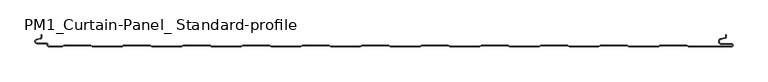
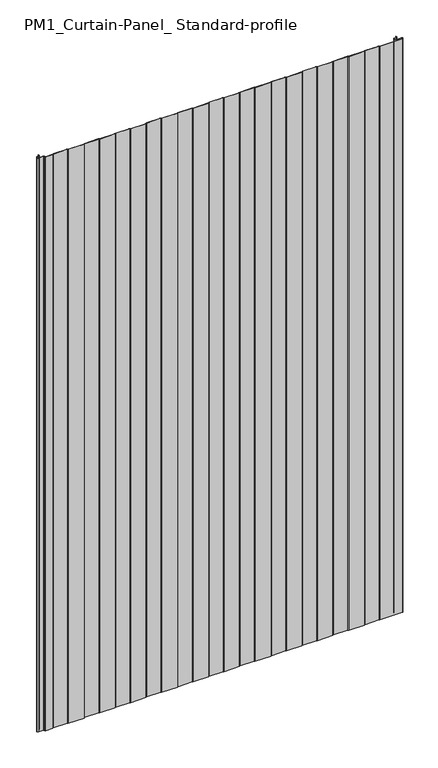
"""IFC4 building model written with IfcOpenShell, lengths in millimetres: plate geometry, PM1_Curtain-Panel_ Standard-profile : ACH_PM1_Acoustic-Sectioning-Panel_200M."""

import ifcopenshell
import ifcopenshell.guid

model = None  # the IFC model being written
_history = None  # IfcOwnerHistory: only IFC2X3 demands one
_inside = {}  # id of a spatial element -> (the spatial element, [elements in it])
_under = {}  # id of a project, library or spatial element -> (it, [spatial elements below it])
_declared = {}  # id of a project -> (the project, [libraries it declares])
_typed = {}  # id of a type object -> (the type object, [elements of that type])
_made_of = {}  # id of a material, layer set ... -> (it, [elements and type objects made of it])


def new_model(schema):
    """Start an empty IFC model of exactly this schema.

    Asked for "IFC4X3", IfcOpenShell would pick the latest addendum, in which some entities
    have other attributes; the version numbers below select the first issue.
    IFC2X3 requires an IfcOwnerHistory on every rooted entity: one is made here for all.
    """
    global model, _history
    if schema == "IFC4X3":
        model = ifcopenshell.file(schema_version=(4, 3, 0, 0))
    else:
        model = ifcopenshell.file(schema=schema)
    _inside.clear()
    _under.clear()
    _declared.clear()
    _typed.clear()
    _made_of.clear()
    _history = None
    if model.schema == "IFC2X3":
        org = make("IfcOrganization", Name="unknown")
        user = make(
            "IfcPersonAndOrganization",
            ThePerson=make("IfcPerson", FamilyName="unknown"),
            TheOrganization=org,
        )
        app = make(
            "IfcApplication",
            ApplicationDeveloper=org,
            Version="unknown",
            ApplicationFullName="unknown",
            ApplicationIdentifier="unknown",
        )
        _history = make(
            "IfcOwnerHistory",
            OwningUser=user,
            OwningApplication=app,
            ChangeAction="ADDED",
            CreationDate=0,
        )
    return model


def make(cls, **values):
    """One entity of the class cls with the attributes given. An attribute that is None is left unset."""
    return model.create_entity(
        cls, **{name: value for name, value in values.items() if value is not None}
    )


def rooted(cls, **values):
    """An entity with a GlobalId (a new one), such as an element, a storey or a relation."""
    return make(cls, GlobalId=ifcopenshell.guid.new(), OwnerHistory=_history, **values)


def si_unit(unit_type, name, prefix=None):
    """IfcSIUnit, for example si_unit("LENGTHUNIT", "METRE", prefix="MILLI")."""
    return make("IfcSIUnit", UnitType=unit_type, Prefix=prefix, Name=name)


def assignment(units):
    """IfcUnitAssignment: the units of a project."""
    return None if units is None else make("IfcUnitAssignment", Units=units)


def point(xyz):
    """IfcCartesianPoint."""
    return None if xyz is None else make("IfcCartesianPoint", Coordinates=xyz)


def direction(xyz):
    """IfcDirection."""
    return None if xyz is None else make("IfcDirection", DirectionRatios=xyz)


def frame(location, z_axis=None, x_axis=None):
    """IfcAxis2Placement3D, a coordinate frame: its origin and axes. An axis left out is left unset."""
    return make(
        "IfcAxis2Placement3D",
        Location=point(location),
        Axis=direction(z_axis),
        RefDirection=direction(x_axis),
    )


def origin():
    """The frame at (0, 0, 0) with its axes left unset."""
    return frame((0.0, 0.0, 0.0))


def place(relative_to, where):
    """IfcLocalPlacement: puts the frame where relative to a parent placement (None: the world)."""
    return make(
        "IfcLocalPlacement", PlacementRelTo=relative_to, RelativePlacement=where
    )


def context(
    kind, dimensions, precision=None, world=None, true_north=None, identifier=None
):
    """IfcGeometricRepresentationContext, for example the 3D "Model" context."""
    return make(
        "IfcGeometricRepresentationContext",
        ContextIdentifier=identifier,
        ContextType=kind,
        CoordinateSpaceDimension=dimensions,
        Precision=precision,
        WorldCoordinateSystem=world,
        TrueNorth=true_north,
    )


def project(units=None, contexts=None):
    """IfcProject with its units and contexts."""
    return rooted(
        "IfcProject",
        Name="project",
        RepresentationContexts=contexts,
        UnitsInContext=assignment(units),
    )


def spatial(cls, under=None, at=None, **own):
    """A site, building, storey or space (cls), placed at a placement, below another one or the project."""
    s = rooted(cls, ObjectPlacement=at, **own)
    if under is not None:
        _under.setdefault(under.id(), (under, []))[1].append(s)
    return s


def polyline(points):
    """IfcPolyline through the points."""
    return make("IfcPolyline", Points=[point(p) for p in points])


def circle_curve(where, radius):
    """IfcCircle in the frame where."""
    return make("IfcCircle", Position=where, Radius=radius)


def shape(context_of_items, identifier, shape_type, items):
    """IfcShapeRepresentation: the items that make up one representation, for example the "Body"."""
    return make(
        "IfcShapeRepresentation",
        ContextOfItems=context_of_items,
        RepresentationIdentifier=identifier,
        RepresentationType=shape_type,
        Items=items,
    )


def source(mapping_origin, context_of_items, identifier, shape_type, items):
    """IfcRepresentationMap: a shape defined once, which mapped items show again and again."""
    return make(
        "IfcRepresentationMap",
        MappingOrigin=mapping_origin,
        MappedRepresentation=shape(context_of_items, identifier, shape_type, items),
    )


def transform(
    local_origin,
    x_axis=None,
    y_axis=None,
    z_axis=None,
    scale=None,
    scale2=None,
    scale3=None,
    uniform=True,
):
    """IfcCartesianTransformationOperator3D, or its non-uniform kind. x_axis, y_axis, z_axis: its Axis1, 2, 3."""
    if uniform:
        return make(
            "IfcCartesianTransformationOperator3D",
            Axis1=direction(x_axis),
            Axis2=direction(y_axis),
            LocalOrigin=point(local_origin),
            Scale=scale,
            Axis3=direction(z_axis),
        )
    return make(
        "IfcCartesianTransformationOperator3DnonUniform",
        Axis1=direction(x_axis),
        Axis2=direction(y_axis),
        LocalOrigin=point(local_origin),
        Scale=scale,
        Axis3=direction(z_axis),
        Scale2=scale2,
        Scale3=scale3,
    )


def mapped(mapping_source, mapping_target):
    """IfcMappedItem: shows the shape of a source again, moved by a transform."""
    return make(
        "IfcMappedItem", MappingSource=mapping_source, MappingTarget=mapping_target
    )


def made_of(thing, what):
    """Note that an element or type object is made of a material, layer set ...; save() writes the relation."""
    if what is not None:
        _made_of.setdefault(what.id(), (what, []))[1].append(thing)
    return thing


def element(
    cls,
    number,
    at=None,
    inside=None,
    cuts=None,
    type_object=None,
    material=None,
    context=None,
    identifier="Body",
    shape_type=None,
    held_by="IfcProductDefinitionShape",
    body=None,
    shapes=None,
    **own,
):
    """One element of the class cls, such as IfcWall. Its Tag is "e" and its number.

    at: its placement. inside: the storey or other place that contains it. cuts: it is an
    opening in that element (IfcRelVoidsElement). A single representation is given by context,
    identifier, shape_type and body (its items); several are given by shapes. held_by: the class
    of the entity that holds the representations. save() writes the other relations.
    """
    e = rooted(cls, Tag="e%d" % number, ObjectPlacement=at, **own)
    if body is not None:
        shapes = [shape(context, identifier, shape_type, body)]
    if shapes is not None:
        e.Representation = make(held_by, Representations=shapes)
    if inside is not None:
        _inside.setdefault(inside.id(), (inside, []))[1].append(e)
    if cuts is not None:
        rooted(
            "IfcRelVoidsElement", RelatingBuildingElement=cuts, RelatedOpeningElement=e
        )
    if type_object is not None:
        _typed.setdefault(type_object.id(), (type_object, []))[1].append(e)
    return made_of(e, material)


def aggregate(whole, parts):
    """IfcRelAggregates: a whole, such as a stair, and the parts it consists of."""
    return rooted("IfcRelAggregates", RelatingObject=whole, RelatedObjects=parts)


def save(model, path):
    """Write the relations noted so far, then the file.

    IfcRelAggregates (storeys below a building ...), IfcRelContainedInSpatialStructure (elements
    in a storey), IfcRelDefinesByType, IfcRelAssociatesMaterial and IfcRelDeclares: one each for
    every whole, place, type object, material and project.
    """
    for whole, parts in _under.values():
        aggregate(whole, parts)
    for where, things in _inside.values():
        rooted(
            "IfcRelContainedInSpatialStructure",
            RelatedElements=things,
            RelatingStructure=where,
        )
    for kind, things in _typed.values():
        rooted("IfcRelDefinesByType", RelatedObjects=things, RelatingType=kind)
    for what, things in _made_of.values():
        rooted("IfcRelAssociatesMaterial", RelatedObjects=things, RelatingMaterial=what)
    for by, libraries in _declared.values():
        rooted("IfcRelDeclares", RelatingContext=by, RelatedDefinitions=libraries)
    model.write(path)


def plane_surface(at):
    """IfcPlane: the flat surface through the origin of the frame at, square to its z axis."""
    return make("IfcPlane", Position=at)


def cylinder_surface(at, radius):
    """IfcCylindricalSurface: all points at the distance radius from the z axis of the frame at."""
    return make("IfcCylindricalSurface", Position=at, Radius=radius)


def revolved_surface(curve, axis_point, axis_direction):
    """IfcSurfaceOfRevolution: the curve turned about the line through axis_point along axis_direction."""
    return make(
        "IfcSurfaceOfRevolution",
        SweptCurve=make("IfcArbitraryOpenProfileDef", ProfileType="CURVE", Curve=curve),
        AxisPosition=make("IfcAxis1Placement", Location=point(axis_point), Axis=direction(axis_direction)),
    )


def advanced_brep(points, edges, surfaces, faces):
    """IfcAdvancedBrep: a solid bounded by faces that lie on surfaces and meet in shared edges.

    An edge is (start, end): straight between two places in points (the first is 0);
    or (start, end, curve); or (start, end, curve, False) where it runs against its curve.
    A face is (place in surfaces, loops), or (place, loops, False) where it looks against
    its surface's normal. A loop lists edges by number (the first is 1), with a minus sign
    where the edge is run from its end to its start. The first loop is the outer one.
    """
    corners = [point(p) for p in points]
    vertices = [make("IfcVertexPoint", VertexGeometry=c) for c in corners]
    made = []
    for start, end, *more in edges:
        made.append(
            make(
                "IfcEdgeCurve",
                EdgeStart=vertices[start],
                EdgeEnd=vertices[end],
                EdgeGeometry=more[0] if more else make("IfcPolyline", Points=[corners[start], corners[end]]),
                SameSense=more[1] if len(more) > 1 else True,
            )
        )
    hull = []
    for where, loops, *sense in faces:
        bounds = []
        for j, loop in enumerate(loops):
            ring = [make("IfcOrientedEdge", EdgeElement=made[abs(k) - 1], Orientation=k > 0) for k in loop]
            bounds.append(
                make(
                    "IfcFaceOuterBound" if j == 0 else "IfcFaceBound",
                    Bound=make("IfcEdgeLoop", EdgeList=ring),
                    Orientation=True,
                )
            )
        hull.append(make("IfcAdvancedFace", Bounds=bounds, FaceSurface=surfaces[where], SameSense=sense[0] if sense else True))
    return make("IfcAdvancedBrep", Outer=make("IfcClosedShell", CfsFaces=hull))


def pm1_curtain_panel_standard_profile_b1a9f643(model_context):
    return source(origin(), model_context, "Body", "AdvancedBrep", [
        advanced_brep(
        [(-562.4, -200.0, 1945.7507136), (-539.3999999, -200.0, 1945.7507136), (-536.8019223, -198.5, 1945.7507136), (-492.0019247, -198.5, 1945.7507136), (-489.4038471, -200.0, 1945.7507136), (-439.3999999, -200.0, 1945.7507136), (-436.8019223, -198.5, 1945.7507136), (-392.0019247, -198.5, 1945.7507136), (-389.4038471, -200.0, 1945.7507136), (-339.3999999, -200.0, 1945.7507136), (-336.8019223, -198.5, 1945.7507136), (-292.0019247, -198.5, 1945.7507136), (-289.4038471, -200.0, 1945.7507136), (-239.3999999, -200.0, 1945.7507136), (-236.8019223, -198.5, 1945.7507136), (-192.0019247, -198.5, 1945.7507136), (-189.4038471, -200.0, 1945.7507136), (-139.3999999, -200.0, 1945.7507136), (-136.8019223, -198.5, 1945.7507136), (-92.0019247, -198.5, 1945.7507136), (-89.4038471, -200.0, 1945.7507136), (-39.3999999, -200.0, 1945.7507136), (-36.8019223, -198.5, 1945.7507136), (7.9980753, -198.5, 1945.7507136), (10.5961529, -200.0, 1945.7507136), (60.6000001, -200.0, 1945.7507136), (63.1980777, -198.5, 1945.7507136), (107.9980753, -198.5, 1945.7507136), (110.5961529, -200.0, 1945.7507136), (160.6000001, -200.0, 1945.7507136), (163.1980777, -198.5, 1945.7507136), (207.9980753, -198.5, 1945.7507136), (210.5961529, -200.0, 1945.7507136), (260.6000001, -200.0, 1945.7507136), (263.1980777, -198.5, 1945.7507136), (307.9980753, -198.5, 1945.7507136), (310.5961529, -200.0, 1945.7507136), (360.6000001, -200.0, 1945.7507136), (363.1980777, -198.5, 1945.7507136), (407.9980753, -198.5, 1945.7507136), (410.5961529, -200.0, 1945.7507136), (460.6000001, -200.0, 1945.7507136), (463.1980777, -198.5, 1945.7507136), (507.9980753, -198.5, 1945.7507136), (510.5961529, -200.0, 1945.7507136), (583.1, -200.0, 1945.7507136), (585.6, -197.5, 1945.7507136), (583.1, -195.0, 1945.7507136), (566.1, -195.0, 1945.7507136), (565.4054075, -187.060769, 1945.7507136), (571.8514851, -185.924152, 1945.7507136), (574.0, -183.363652, 1945.7507136), (574.0, -180.0, 1945.7507136), (573.2, -180.0, 1945.7507136), (573.2, -183.363652, 1945.7507136), (571.7125666, -185.136306, 1945.7507136), (565.266489, -186.2729229, 1945.7507136), (566.1, -195.8, 1945.7507136), (583.1, -195.8, 1945.7507136), (583.1, -199.2, 1945.7507136), (510.8105122, -199.2, 1945.7507136), (508.2124346, -197.7, 1945.7507136), (462.9837184, -197.7, 1945.7507136), (460.3856408, -199.2, 1945.7507136), (410.8105122, -199.2, 1945.7507136), (408.2124346, -197.7, 1945.7507136), (362.9837184, -197.7, 1945.7507136), (360.3856408, -199.2, 1945.7507136), (310.8105122, -199.2, 1945.7507136), (308.2124346, -197.7, 1945.7507136), (262.9837184, -197.7, 1945.7507136), (260.3856408, -199.2, 1945.7507136), (210.8105122, -199.2, 1945.7507136), (208.2124346, -197.7, 1945.7507136), (162.9837184, -197.7, 1945.7507136), (160.3856408, -199.2, 1945.7507136), (110.8105122, -199.2, 1945.7507136), (108.2124346, -197.7, 1945.7507136), (62.9837184, -197.7, 1945.7507136), (60.3856408, -199.2, 1945.7507136), (10.8105122, -199.2, 1945.7507136), (8.2124346, -197.7, 1945.7507136), (-37.0162816, -197.7, 1945.7507136), (-39.6143592, -199.2, 1945.7507136), (-89.1894878, -199.2, 1945.7507136), (-91.7875654, -197.7, 1945.7507136), (-137.0162816, -197.7, 1945.7507136), (-139.6143592, -199.2, 1945.7507136), (-189.1894878, -199.2, 1945.7507136), (-191.7875654, -197.7, 1945.7507136), (-237.0162816, -197.7, 1945.7507136), (-239.6143592, -199.2, 1945.7507136), (-289.1894878, -199.2, 1945.7507136), (-291.7875654, -197.7, 1945.7507136), (-337.0162816, -197.7, 1945.7507136), (-339.6143592, -199.2, 1945.7507136), (-389.1894878, -199.2, 1945.7507136), (-391.7875654, -197.7, 1945.7507136), (-437.0162816, -197.7, 1945.7507136), (-439.6143592, -199.2, 1945.7507136), (-489.1894878, -199.2, 1945.7507136), (-491.7875654, -197.7, 1945.7507136), (-537.0162816, -197.7, 1945.7507136), (-539.6143592, -199.2, 1945.7507136), (-562.4, -199.2, 1945.7507136), (-563.6, -198.0, 1945.7507136), (-563.6, -196.6, 1945.7507136), (-566.4, -193.8, 1945.7507136), (-581.9, -193.8, 1945.7507136), (-582.529863, -188.2717638, 1945.7507136), (-576.370137, -186.849679, 1945.7507136), (-574.2, -184.121443, 1945.7507136), (-574.2, -180.0, 1945.7507136), (-575.0, -180.0, 1945.7507136), (-575.0, -184.121443, 1945.7507136), (-576.5500978, -186.0701831, 1945.7507136), (-582.7098239, -187.492268, 1945.7507136), (-581.9, -194.6, 1945.7507136), (-566.4, -194.6, 1945.7507136), (-564.4, -196.6, 1945.7507136), (-564.4, -198.0, 1945.7507136), (-562.4, -200.0, 0.0), (-564.4, -198.0, 0.0), (-564.4, -196.6, 0.0), (-566.4, -194.6, 0.0), (-581.9, -194.6, 0.0), (-582.7098239, -187.4922678, 0.0), (-576.5500979, -186.070183, 0.0), (-575.0, -184.121443, 0.0), (-575.0, -180.0, 0.0), (-574.2, -180.0, 0.0), (-574.2, -184.121443, 0.0), (-576.370137, -186.8496792, 0.0), (-582.529863, -188.271764, 0.0), (-581.9, -193.8, 0.0), (-566.4, -193.8, 0.0), (-563.6, -196.6, 0.0), (-563.6, -198.0, 0.0), (-562.4, -199.2, 0.0), (-539.6143592, -199.2, 0.0), (-537.0162816, -197.7, 0.0), (-491.7875654, -197.7, 0.0), (-489.1894878, -199.2, 0.0), (-439.6143592, -199.2, 0.0), (-437.0162816, -197.7, 0.0), (-391.7875654, -197.7, 0.0), (-389.1894878, -199.2, 0.0), (-339.6143592, -199.2, 0.0), (-337.0162816, -197.7, 0.0), (-291.7875654, -197.7, 0.0), (-289.1894878, -199.2, 0.0), (-239.6143592, -199.2, 0.0), (-237.0162816, -197.7, 0.0), (-191.7875654, -197.7, 0.0), (-189.1894878, -199.2, 0.0), (-139.6143592, -199.2, 0.0), (-137.0162816, -197.7, 0.0), (-91.7875654, -197.7, 0.0), (-89.1894878, -199.2, 0.0), (-39.6143592, -199.2, 0.0), (-37.0162816, -197.7, 0.0), (8.2124346, -197.7, 0.0), (10.8105122, -199.2, 0.0), (60.3856408, -199.2, 0.0), (62.9837184, -197.7, 0.0), (108.2124346, -197.7, 0.0), (110.8105122, -199.2, 0.0), (160.3856408, -199.2, 0.0), (162.9837184, -197.7, 0.0), (208.2124346, -197.7, 0.0), (210.8105122, -199.2, 0.0), (260.3856408, -199.2, 0.0), (262.9837184, -197.7, 0.0), (308.2124346, -197.7, 0.0), (310.8105122, -199.2, 0.0), (360.3856408, -199.2, 0.0), (362.9837184, -197.7, 0.0), (408.2124346, -197.7, 0.0), (410.8105122, -199.2, 0.0), (460.3856408, -199.2, 0.0), (462.9837184, -197.7, 0.0), (508.2124346, -197.7, 0.0), (510.8105122, -199.2, 0.0), (583.1, -199.2, 0.0), (583.1, -195.8, 0.0), (566.1, -195.8, 0.0), (565.266489, -186.2729227, 0.0), (571.7125666, -185.1363058, 0.0), (573.2, -183.363652, 0.0), (573.2, -180.0, 0.0), (574.0, -180.0, 0.0), (574.0, -183.363652, 0.0), (571.8514851, -185.9241522, 0.0), (565.4054075, -187.0607691, 0.0), (566.1, -195.0, 0.0), (583.1, -195.0, 0.0), (585.6, -197.5, 0.0), (583.1, -200.0, 0.0), (510.5961529, -200.0, 0.0), (507.9980753, -198.5, 0.0), (463.1980777, -198.5, 0.0), (460.6000001, -200.0, 0.0), (410.5961529, -200.0, 0.0), (407.9980753, -198.5, 0.0), (363.1980777, -198.5, 0.0), (360.6000001, -200.0, 0.0), (310.5961529, -200.0, 0.0), (307.9980753, -198.5, 0.0), (263.1980777, -198.5, 0.0), (260.6000001, -200.0, 0.0), (210.5961529, -200.0, 0.0), (207.9980753, -198.5, 0.0), (163.1980777, -198.5, 0.0), (160.6000001, -200.0, 0.0), (110.5961529, -200.0, 0.0), (107.9980753, -198.5, 0.0), (63.1980777, -198.5, 0.0), (60.6000001, -200.0, 0.0), (10.5961529, -200.0, 0.0), (7.9980753, -198.5, 0.0), (-36.8019223, -198.5, 0.0), (-39.3999999, -200.0, 0.0), (-89.4038471, -200.0, 0.0), (-92.0019247, -198.5, 0.0), (-136.8019223, -198.5, 0.0), (-139.3999999, -200.0, 0.0), (-189.4038471, -200.0, 0.0), (-192.0019247, -198.5, 0.0), (-236.8019223, -198.5, 0.0), (-239.3999999, -200.0, 0.0), (-289.4038471, -200.0, 0.0), (-292.0019247, -198.5, 0.0), (-336.8019223, -198.5, 0.0), (-339.3999999, -200.0, 0.0), (-389.4038471, -200.0, 0.0), (-392.0019247, -198.5, 0.0), (-436.8019223, -198.5, 0.0), (-439.3999999, -200.0, 0.0), (-489.4038471, -200.0, 0.0), (-492.0019247, -198.5, 0.0), (-536.8019223, -198.5, 0.0), (-539.3999999, -200.0, 0.0)],
        [
            (0, 1),
            (1, 2),
            (2, 3),
            (3, 4),
            (4, 5),
            (5, 6),
            (6, 7),
            (7, 8),
            (8, 9),
            (9, 10),
            (10, 11),
            (11, 12),
            (12, 13),
            (13, 14),
            (14, 15),
            (15, 16),
            (16, 17),
            (17, 18),
            (18, 19),
            (19, 20),
            (20, 21),
            (21, 22),
            (22, 23),
            (23, 24),
            (24, 25),
            (25, 26),
            (26, 27),
            (27, 28),
            (28, 29),
            (29, 30),
            (30, 31),
            (31, 32),
            (32, 33),
            (33, 34),
            (34, 35),
            (35, 36),
            (36, 37),
            (37, 38),
            (38, 39),
            (39, 40),
            (40, 41),
            (41, 42),
            (42, 43),
            (43, 44),
            (44, 45),
            (45, 46, circle_curve(frame((583.1, -197.5, 1945.7507136), z_axis=(0.0, 0.0, 1.0), x_axis=(1.0, 0.0, 0.0)), 2.5)),
            (46, 47, circle_curve(frame((583.1, -197.5, 1945.7507136), z_axis=(0.0, 0.0, 1.0), x_axis=(1.0, 0.0, 0.0)), 2.5)),
            (47, 48),
            (48, 49, circle_curve(frame((566.1, -191.0, 1945.7507136), z_axis=(0.0, 0.0, -1.0), x_axis=(1.0, 0.0, 0.0)), 4.0)),
            (49, 50),
            (50, 51, circle_curve(frame((571.4, -183.363652, 1945.7507136), z_axis=(0.0, 0.0, 1.0), x_axis=(1.0, 0.0, 0.0)), 2.6)),
            (51, 52),
            (52, 53),
            (53, 54),
            (54, 55, circle_curve(frame((571.4, -183.363652, 1945.7507136), z_axis=(0.0, 0.0, -1.0), x_axis=(1.0, 0.0, 0.0)), 1.8)),
            (55, 56),
            (56, 57, circle_curve(frame((566.1, -191.0, 1945.7507136), z_axis=(0.0, 0.0, 1.0), x_axis=(1.0, 0.0, 0.0)), 4.8)),
            (57, 58),
            (58, 59, circle_curve(frame((583.1, -197.5, 1945.7507136), z_axis=(0.0, 0.0, -1.0), x_axis=(1.0, 0.0, 0.0)), 1.7)),
            (59, 60),
            (60, 61),
            (61, 62),
            (62, 63),
            (63, 64),
            (64, 65),
            (65, 66),
            (66, 67),
            (67, 68),
            (68, 69),
            (69, 70),
            (70, 71),
            (71, 72),
            (72, 73),
            (73, 74),
            (74, 75),
            (75, 76),
            (76, 77),
            (77, 78),
            (78, 79),
            (79, 80),
            (80, 81),
            (81, 82),
            (82, 83),
            (83, 84),
            (84, 85),
            (85, 86),
            (86, 87),
            (87, 88),
            (88, 89),
            (89, 90),
            (90, 91),
            (91, 92),
            (92, 93),
            (93, 94),
            (94, 95),
            (95, 96),
            (96, 97),
            (97, 98),
            (98, 99),
            (99, 100),
            (100, 101),
            (101, 102),
            (102, 103),
            (103, 104),
            (104, 105, circle_curve(frame((-562.4, -198.0, 1945.7507136), z_axis=(0.0, 0.0, -1.0), x_axis=(1.0, 0.0, 0.0)), 1.2)),
            (105, 106),
            (106, 107, circle_curve(frame((-566.4, -196.6, 1945.7507136), z_axis=(0.0, 0.0, 1.0), x_axis=(1.0, 0.0, 0.0)), 2.8)),
            (107, 108),
            (108, 109, circle_curve(frame((-581.9, -191.0, 1945.7507136), z_axis=(0.0, 0.0, -1.0), x_axis=(1.0, 0.0, 0.0)), 2.8)),
            (109, 110),
            (110, 111, circle_curve(frame((-577.0, -184.121443, 1945.7507136), z_axis=(0.0, 0.0, 1.0), x_axis=(1.0, 0.0, 0.0)), 2.8)),
            (111, 112),
            (112, 113),
            (113, 114),
            (114, 115, circle_curve(frame((-577.0, -184.121443, 1945.7507136), z_axis=(0.0, 0.0, -1.0), x_axis=(1.0, 0.0, 0.0)), 2.0)),
            (115, 116),
            (116, 117, circle_curve(frame((-581.9, -191.0, 1945.7507136), z_axis=(0.0, 0.0, 1.0), x_axis=(1.0, 0.0, 0.0)), 3.6)),
            (117, 118),
            (118, 119, circle_curve(frame((-566.4, -196.6, 1945.7507136), z_axis=(0.0, 0.0, -1.0), x_axis=(1.0, 0.0, 0.0)), 2.0)),
            (119, 120),
            (120, 0, circle_curve(frame((-562.4, -198.0, 1945.7507136), z_axis=(0.0, 0.0, 1.0), x_axis=(1.0, 0.0, 0.0)), 2.0)),
            (121, 122, circle_curve(frame((-562.4, -198.0, 0.0), z_axis=(0.0, 0.0, -1.0), x_axis=(1.0, 0.0, 0.0)), 2.0)),
            (122, 123),
            (123, 124, circle_curve(frame((-566.4, -196.6, 0.0), z_axis=(0.0, 0.0, 1.0), x_axis=(1.0, 0.0, 0.0)), 2.0)),
            (124, 125),
            (125, 126, circle_curve(frame((-581.9, -191.0, 0.0), z_axis=(0.0, 0.0, -1.0), x_axis=(1.0, 0.0, 0.0)), 3.6)),
            (126, 127),
            (127, 128, circle_curve(frame((-577.0, -184.121443, 0.0), z_axis=(0.0, 0.0, 1.0), x_axis=(1.0, 0.0, 0.0)), 2.0)),
            (128, 129),
            (129, 130),
            (130, 131),
            (131, 132, circle_curve(frame((-577.0, -184.121443, 0.0), z_axis=(0.0, 0.0, -1.0), x_axis=(1.0, 0.0, 0.0)), 2.8)),
            (132, 133),
            (133, 134, circle_curve(frame((-581.9, -191.0, 0.0), z_axis=(0.0, 0.0, 1.0), x_axis=(1.0, 0.0, 0.0)), 2.8)),
            (134, 135),
            (135, 136, circle_curve(frame((-566.4, -196.6, 0.0), z_axis=(0.0, 0.0, -1.0), x_axis=(1.0, 0.0, 0.0)), 2.8)),
            (136, 137),
            (137, 138, circle_curve(frame((-562.4, -198.0, 0.0), z_axis=(0.0, 0.0, 1.0), x_axis=(1.0, 0.0, 0.0)), 1.2)),
            (138, 139),
            (139, 140),
            (140, 141),
            (141, 142),
            (142, 143),
            (143, 144),
            (144, 145),
            (145, 146),
            (146, 147),
            (147, 148),
            (148, 149),
            (149, 150),
            (150, 151),
            (151, 152),
            (152, 153),
            (153, 154),
            (154, 155),
            (155, 156),
            (156, 157),
            (157, 158),
            (158, 159),
            (159, 160),
            (160, 161),
            (161, 162),
            (162, 163),
            (163, 164),
            (164, 165),
            (165, 166),
            (166, 167),
            (167, 168),
            (168, 169),
            (169, 170),
            (170, 171),
            (171, 172),
            (172, 173),
            (173, 174),
            (174, 175),
            (175, 176),
            (176, 177),
            (177, 178),
            (178, 179),
            (179, 180),
            (180, 181),
            (181, 182),
            (182, 183),
            (183, 184, circle_curve(frame((583.1, -197.5, 0.0), z_axis=(0.0, 0.0, 1.0), x_axis=(1.0, 0.0, 0.0)), 1.7)),
            (184, 185),
            (185, 186, circle_curve(frame((566.1, -191.0, 0.0), z_axis=(0.0, 0.0, -1.0), x_axis=(1.0, 0.0, 0.0)), 4.8)),
            (186, 187),
            (187, 188, circle_curve(frame((571.4, -183.363652, 0.0), z_axis=(0.0, 0.0, 1.0), x_axis=(1.0, 0.0, 0.0)), 1.8)),
            (188, 189),
            (189, 190),
            (190, 191),
            (191, 192, circle_curve(frame((571.4, -183.363652, 0.0), z_axis=(0.0, 0.0, -1.0), x_axis=(1.0, 0.0, 0.0)), 2.6)),
            (192, 193),
            (193, 194, circle_curve(frame((566.1, -191.0, 0.0), z_axis=(0.0, 0.0, 1.0), x_axis=(1.0, 0.0, 0.0)), 4.0)),
            (194, 195),
            (195, 196, circle_curve(frame((583.1, -197.5, 0.0), z_axis=(0.0, 0.0, -1.0), x_axis=(1.0, 0.0, 0.0)), 2.5)),
            (196, 197, circle_curve(frame((583.1, -197.5, 0.0), z_axis=(0.0, 0.0, -1.0), x_axis=(1.0, 0.0, 0.0)), 2.5)),
            (197, 198),
            (198, 199),
            (199, 200),
            (200, 201),
            (201, 202),
            (202, 203),
            (203, 204),
            (204, 205),
            (205, 206),
            (206, 207),
            (207, 208),
            (208, 209),
            (209, 210),
            (210, 211),
            (211, 212),
            (212, 213),
            (213, 214),
            (214, 215),
            (215, 216),
            (216, 217),
            (217, 218),
            (218, 219),
            (219, 220),
            (220, 221),
            (221, 222),
            (222, 223),
            (223, 224),
            (224, 225),
            (225, 226),
            (226, 227),
            (227, 228),
            (228, 229),
            (229, 230),
            (230, 231),
            (231, 232),
            (232, 233),
            (233, 234),
            (234, 235),
            (235, 236),
            (236, 237),
            (237, 238),
            (238, 239),
            (239, 240),
            (240, 241),
            (241, 121),
            (0, 121),
            (241, 1),
            (240, 2),
            (239, 3),
            (238, 4),
            (237, 5),
            (236, 6),
            (235, 7),
            (234, 8),
            (233, 9),
            (232, 10),
            (231, 11),
            (230, 12),
            (229, 13),
            (228, 14),
            (227, 15),
            (226, 16),
            (225, 17),
            (224, 18),
            (223, 19),
            (222, 20),
            (221, 21),
            (220, 22),
            (219, 23),
            (218, 24),
            (217, 25),
            (216, 26),
            (215, 27),
            (214, 28),
            (213, 29),
            (212, 30),
            (211, 31),
            (210, 32),
            (209, 33),
            (208, 34),
            (207, 35),
            (206, 36),
            (205, 37),
            (204, 38),
            (203, 39),
            (202, 40),
            (201, 41),
            (200, 42),
            (199, 43),
            (198, 44),
            (197, 45),
            (195, 47),
            (194, 48),
            (193, 49),
            (192, 50),
            (191, 51),
            (190, 52),
            (189, 53),
            (188, 54),
            (187, 55),
            (186, 56),
            (185, 57),
            (184, 58),
            (183, 59),
            (182, 60),
            (181, 61),
            (180, 62),
            (179, 63),
            (178, 64),
            (177, 65),
            (176, 66),
            (175, 67),
            (174, 68),
            (173, 69),
            (172, 70),
            (171, 71),
            (170, 72),
            (169, 73),
            (168, 74),
            (167, 75),
            (166, 76),
            (165, 77),
            (164, 78),
            (163, 79),
            (162, 80),
            (161, 81),
            (160, 82),
            (159, 83),
            (158, 84),
            (157, 85),
            (156, 86),
            (155, 87),
            (154, 88),
            (153, 89),
            (152, 90),
            (151, 91),
            (150, 92),
            (149, 93),
            (148, 94),
            (147, 95),
            (146, 96),
            (145, 97),
            (144, 98),
            (143, 99),
            (142, 100),
            (141, 101),
            (140, 102),
            (139, 103),
            (138, 104),
            (137, 105),
            (136, 106),
            (135, 107),
            (134, 108),
            (133, 109),
            (132, 110),
            (131, 111),
            (130, 112),
            (129, 113),
            (128, 114),
            (127, 115),
            (126, 116),
            (125, 117),
            (124, 118),
            (123, 119),
            (122, 120),
        ],
        [
            plane_surface(frame((-575.0, -200.0, 1945.7507136), z_axis=(0.0, 0.0, 1.0), x_axis=(0.0, 1.0, 0.0))),
            plane_surface(frame((-575.0, -200.0, 0.0), z_axis=(0.0, 0.0, -1.0), x_axis=(0.0, 1.0, 0.0))),
            plane_surface(frame((-562.4, -200.0, 1945.7507136), z_axis=(0.0, -1.0, 0.0), x_axis=(0.0, 0.0, -1.0))),
            plane_surface(frame((-539.3999999, -200.0, 1945.7507136), z_axis=(0.49999979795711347, -0.8660255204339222, 0.0), x_axis=(0.0, 0.0, -1.0))),
            plane_surface(frame((-536.8019223, -198.5, 1945.7507136), z_axis=(0.0, -1.0, 0.0), x_axis=(0.0, 0.0, -1.0))),
            plane_surface(frame((-492.0019247, -198.5, 1945.7507136), z_axis=(-0.49999979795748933, -0.8660255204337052, 0.0), x_axis=(0.0, 0.0, -1.0))),
            plane_surface(frame((-489.4038471, -200.0, 1945.7507136), z_axis=(0.0, -1.0, 0.0), x_axis=(0.0, 0.0, -1.0))),
            plane_surface(frame((-439.3999999, -200.0, 1945.7507136), z_axis=(0.49999979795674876, -0.8660255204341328, 0.0), x_axis=(0.0, 0.0, -1.0))),
            plane_surface(frame((-436.8019223, -198.5, 1945.7507136), z_axis=(0.0, -1.0, 0.0), x_axis=(0.0, 0.0, -1.0))),
            plane_surface(frame((-392.0019247, -198.5, 1945.7507136), z_axis=(-0.4999997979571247, -0.8660255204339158, 0.0), x_axis=(0.0, 0.0, -1.0))),
            plane_surface(frame((-389.4038471, -200.0, 1945.7507136), z_axis=(0.0, -1.0, 0.0), x_axis=(0.0, 0.0, -1.0))),
            plane_surface(frame((-339.3999999, -200.0, 1945.7507136), z_axis=(0.49999979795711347, -0.8660255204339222, 0.0), x_axis=(0.0, 0.0, -1.0))),
            plane_surface(frame((-336.8019223, -198.5, 1945.7507136), z_axis=(0.0, -1.0, 0.0), x_axis=(0.0, 0.0, -1.0))),
            plane_surface(frame((-292.0019247, -198.5, 1945.7507136), z_axis=(-0.4999997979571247, -0.8660255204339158, 0.0), x_axis=(0.0, 0.0, -1.0))),
            plane_surface(frame((-289.4038471, -200.0, 1945.7507136), z_axis=(0.0, -1.0, 0.0), x_axis=(0.0, 0.0, -1.0))),
            plane_surface(frame((-239.3999999, -200.0, 1945.7507136), z_axis=(0.49999979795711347, -0.8660255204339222, 0.0), x_axis=(0.0, 0.0, -1.0))),
            plane_surface(frame((-236.8019223, -198.5, 1945.7507136), z_axis=(0.0, -1.0, 0.0), x_axis=(0.0, 0.0, -1.0))),
            plane_surface(frame((-192.0019247, -198.5, 1945.7507136), z_axis=(-0.49999979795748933, -0.8660255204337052, 0.0), x_axis=(0.0, 0.0, -1.0))),
            plane_surface(frame((-189.4038471, -200.0, 1945.7507136), z_axis=(0.0, -1.0, 0.0), x_axis=(0.0, 0.0, -1.0))),
            plane_surface(frame((-139.3999999, -200.0, 1945.7507136), z_axis=(0.49999979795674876, -0.8660255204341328, 0.0), x_axis=(0.0, 0.0, -1.0))),
            plane_surface(frame((-136.8019223, -198.5, 1945.7507136), z_axis=(0.0, -1.0, 0.0), x_axis=(0.0, 0.0, -1.0))),
            plane_surface(frame((-92.0019247, -198.5, 1945.7507136), z_axis=(-0.4999997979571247, -0.8660255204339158, 0.0), x_axis=(0.0, 0.0, -1.0))),
            plane_surface(frame((-89.4038471, -200.0, 1945.7507136), z_axis=(0.0, -1.0, 0.0), x_axis=(0.0, 0.0, -1.0))),
            plane_surface(frame((-39.3999999, -200.0, 1945.7507136), z_axis=(0.49999979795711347, -0.8660255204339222, 0.0), x_axis=(0.0, 0.0, -1.0))),
            plane_surface(frame((-36.8019223, -198.5, 1945.7507136), z_axis=(0.0, -1.0, 0.0), x_axis=(0.0, 0.0, -1.0))),
            plane_surface(frame((7.9980753, -198.5, 1945.7507136), z_axis=(-0.4999997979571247, -0.8660255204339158, 0.0), x_axis=(0.0, 0.0, -1.0))),
            plane_surface(frame((10.5961529, -200.0, 1945.7507136), z_axis=(0.0, -1.0, 0.0), x_axis=(0.0, 0.0, -1.0))),
            plane_surface(frame((60.6000001, -200.0, 1945.7507136), z_axis=(0.49999979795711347, -0.8660255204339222, 0.0), x_axis=(0.0, 0.0, -1.0))),
            plane_surface(frame((63.1980777, -198.5, 1945.7507136), z_axis=(0.0, -1.0, 0.0), x_axis=(0.0, 0.0, -1.0))),
            plane_surface(frame((107.9980753, -198.5, 1945.7507136), z_axis=(-0.49999979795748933, -0.8660255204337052, 0.0), x_axis=(0.0, 0.0, -1.0))),
            plane_surface(frame((110.5961529, -200.0, 1945.7507136), z_axis=(0.0, -1.0, 0.0), x_axis=(0.0, 0.0, -1.0))),
            plane_surface(frame((160.6000001, -200.0, 1945.7507136), z_axis=(0.49999979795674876, -0.8660255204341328, 0.0), x_axis=(0.0, 0.0, -1.0))),
            plane_surface(frame((163.1980777, -198.5, 1945.7507136), z_axis=(0.0, -1.0, 0.0), x_axis=(0.0, 0.0, -1.0))),
            plane_surface(frame((207.9980753, -198.5, 1945.7507136), z_axis=(-0.4999997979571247, -0.8660255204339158, 0.0), x_axis=(0.0, 0.0, -1.0))),
            plane_surface(frame((210.5961529, -200.0, 1945.7507136), z_axis=(0.0, -1.0, 0.0), x_axis=(0.0, 0.0, -1.0))),
            plane_surface(frame((260.6000001, -200.0, 1945.7507136), z_axis=(0.49999979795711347, -0.8660255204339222, 0.0), x_axis=(0.0, 0.0, -1.0))),
            plane_surface(frame((263.1980777, -198.5, 1945.7507136), z_axis=(0.0, -1.0, 0.0), x_axis=(0.0, 0.0, -1.0))),
            plane_surface(frame((307.9980753, -198.5, 1945.7507136), z_axis=(-0.4999997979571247, -0.8660255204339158, 0.0), x_axis=(0.0, 0.0, -1.0))),
            plane_surface(frame((310.5961529, -200.0, 1945.7507136), z_axis=(0.0, -1.0, 0.0), x_axis=(0.0, 0.0, -1.0))),
            plane_surface(frame((360.6000001, -200.0, 1945.7507136), z_axis=(0.49999979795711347, -0.8660255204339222, 0.0), x_axis=(0.0, 0.0, -1.0))),
            plane_surface(frame((363.1980777, -198.5, 1945.7507136), z_axis=(0.0, -1.0, 0.0), x_axis=(0.0, 0.0, -1.0))),
            plane_surface(frame((407.9980753, -198.5, 1945.7507136), z_axis=(-0.49999979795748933, -0.8660255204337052, 0.0), x_axis=(0.0, 0.0, -1.0))),
            plane_surface(frame((410.5961529, -200.0, 1945.7507136), z_axis=(0.0, -1.0, 0.0), x_axis=(0.0, 0.0, -1.0))),
            plane_surface(frame((460.6000001, -200.0, 1945.7507136), z_axis=(0.49999979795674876, -0.8660255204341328, 0.0), x_axis=(0.0, 0.0, -1.0))),
            plane_surface(frame((463.1980777, -198.5, 1945.7507136), z_axis=(0.0, -1.0, 0.0), x_axis=(0.0, 0.0, -1.0))),
            plane_surface(frame((507.9980753, -198.5, 1945.7507136), z_axis=(-0.4999997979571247, -0.8660255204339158, 0.0), x_axis=(0.0, 0.0, -1.0))),
            plane_surface(frame((560.890897, -200.0, 1945.7507136), z_axis=(0.0, -1.0, 0.0), x_axis=(0.0, 0.0, -1.0))),
            cylinder_surface(frame((583.1, -197.5, 1945.7507136), z_axis=(0.0, 0.0, 1.0), x_axis=(1.0, 0.0, 0.0)), 2.5),
            plane_surface(frame((583.1, -195.0, 1945.7507136), z_axis=(0.0, 1.0, 0.0), x_axis=(0.0, 0.0, -1.0))),
            revolved_surface(polyline([(570.1, -191.0, 0.0), (570.1, -191.0, 1945.7507136)]), (566.1, -191.0, 1945.7507136), (0.0, 0.0, -1.0)),
            plane_surface(frame((565.4054075, -187.0607691, 1945.7507136), z_axis=(0.17364813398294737, -0.9848077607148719, 0.0), x_axis=(0.0, 0.0, -1.0))),
            cylinder_surface(frame((571.4, -183.363652, 1945.7507136), z_axis=(0.0, 0.0, 1.0), x_axis=(1.0, 0.0, 0.0)), 2.6),
            plane_surface(frame((574.0, -183.363652, 1945.7507136), z_axis=(1.0, 0.0, 0.0), x_axis=(0.0, 0.0, -1.0))),
            plane_surface(frame((574.0, -180.0, 1945.7507136), z_axis=(0.0, 1.0, 0.0), x_axis=(0.0, 0.0, -1.0))),
            plane_surface(frame((573.2, -180.0, 1945.7507136), z_axis=(-1.0, 0.0, 0.0), x_axis=(0.0, 0.0, -1.0))),
            revolved_surface(polyline([(573.1999999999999, -183.363652, 0.0), (573.1999999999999, -183.363652, 1945.7507136)]), (571.4, -183.363652, 1945.7507136), (0.0, 0.0, -1.0)),
            plane_surface(frame((571.7125666, -185.1363058, 1945.7507136), z_axis=(-0.17364813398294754, 0.9848077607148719, 0.0), x_axis=(0.0, 0.0, -1.0))),
            cylinder_surface(frame((566.1, -191.0, 1945.7507136), z_axis=(0.0, 0.0, 1.0), x_axis=(1.0, 0.0, 0.0)), 4.8),
            plane_surface(frame((566.1, -195.8, 1945.7507136), z_axis=(0.0, -1.0, 0.0), x_axis=(0.0, 0.0, -1.0))),
            revolved_surface(polyline([(584.8000000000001, -197.5, 0.0), (584.8000000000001, -197.5, 1945.7507136)]), (583.1, -197.5, 1945.7507136), (0.0, 0.0, -1.0)),
            plane_surface(frame((560.890897, -199.2, 1945.7507136), z_axis=(0.0, 1.0, 0.0), x_axis=(0.0, 0.0, -1.0))),
            plane_surface(frame((510.8105122, -199.2, 1945.7507136), z_axis=(0.49999979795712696, 0.8660255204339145, 0.0), x_axis=(0.0, 0.0, -1.0))),
            plane_surface(frame((508.2124346, -197.7, 1945.7507136), z_axis=(0.0, 1.0, 0.0), x_axis=(0.0, 0.0, -1.0))),
            plane_surface(frame((462.9837184, -197.7, 1945.7507136), z_axis=(-0.4999997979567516, 0.8660255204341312, 0.0), x_axis=(0.0, 0.0, -1.0))),
            plane_surface(frame((460.3856408, -199.2, 1945.7507136), z_axis=(0.0, 1.0, 0.0), x_axis=(0.0, 0.0, -1.0))),
            plane_surface(frame((410.8105122, -199.2, 1945.7507136), z_axis=(0.4999997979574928, 0.8660255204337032, 0.0), x_axis=(0.0, 0.0, -1.0))),
            plane_surface(frame((408.2124346, -197.7, 1945.7507136), z_axis=(0.0, 1.0, 0.0), x_axis=(0.0, 0.0, -1.0))),
            plane_surface(frame((362.9837184, -197.7, 1945.7507136), z_axis=(-0.49999979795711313, 0.8660255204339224, 0.0), x_axis=(0.0, 0.0, -1.0))),
            plane_surface(frame((360.3856408, -199.2, 1945.7507136), z_axis=(0.0, 1.0, 0.0), x_axis=(0.0, 0.0, -1.0))),
            plane_surface(frame((310.8105122, -199.2, 1945.7507136), z_axis=(0.4999997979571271, 0.8660255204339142, 0.0), x_axis=(0.0, 0.0, -1.0))),
            plane_surface(frame((308.2124346, -197.7, 1945.7507136), z_axis=(0.0, 1.0, 0.0), x_axis=(0.0, 0.0, -1.0))),
            plane_surface(frame((262.9837184, -197.7, 1945.7507136), z_axis=(-0.49999979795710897, 0.8660255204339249, 0.0), x_axis=(0.0, 0.0, -1.0))),
            plane_surface(frame((260.3856408, -199.2, 1945.7507136), z_axis=(0.0, 1.0, 0.0), x_axis=(0.0, 0.0, -1.0))),
            plane_surface(frame((210.8105122, -199.2, 1945.7507136), z_axis=(0.4999997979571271, 0.8660255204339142, 0.0), x_axis=(0.0, 0.0, -1.0))),
            plane_surface(frame((208.2124346, -197.7, 1945.7507136), z_axis=(0.0, 1.0, 0.0), x_axis=(0.0, 0.0, -1.0))),
            plane_surface(frame((162.9837184, -197.7, 1945.7507136), z_axis=(-0.4999997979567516, 0.8660255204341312, 0.0), x_axis=(0.0, 0.0, -1.0))),
            plane_surface(frame((160.3856408, -199.2, 1945.7507136), z_axis=(0.0, 1.0, 0.0), x_axis=(0.0, 0.0, -1.0))),
            plane_surface(frame((110.8105122, -199.2, 1945.7507136), z_axis=(0.49999979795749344, 0.8660255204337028, 0.0), x_axis=(0.0, 0.0, -1.0))),
            plane_surface(frame((108.2124346, -197.7, 1945.7507136), z_axis=(0.0, 1.0, 0.0), x_axis=(0.0, 0.0, -1.0))),
            plane_surface(frame((62.9837184, -197.7, 1945.7507136), z_axis=(-0.49999979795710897, 0.8660255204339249, 0.0), x_axis=(0.0, 0.0, -1.0))),
            plane_surface(frame((60.3856408, -199.2, 1945.7507136), z_axis=(0.0, 1.0, 0.0), x_axis=(0.0, 0.0, -1.0))),
            plane_surface(frame((10.8105122, -199.2, 1945.7507136), z_axis=(0.4999997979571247, 0.8660255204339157, 0.0), x_axis=(0.0, 0.0, -1.0))),
            plane_surface(frame((8.2124346, -197.7, 1945.7507136), z_axis=(0.0, 1.0, 0.0), x_axis=(0.0, 0.0, -1.0))),
            plane_surface(frame((-37.0162816, -197.7, 1945.7507136), z_axis=(-0.49999979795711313, 0.8660255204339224, 0.0), x_axis=(0.0, 0.0, -1.0))),
            plane_surface(frame((-39.6143592, -199.2, 1945.7507136), z_axis=(0.0, 1.0, 0.0), x_axis=(0.0, 0.0, -1.0))),
            plane_surface(frame((-89.1894878, -199.2, 1945.7507136), z_axis=(0.4999997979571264, 0.8660255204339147, 0.0), x_axis=(0.0, 0.0, -1.0))),
            plane_surface(frame((-91.7875654, -197.7, 1945.7507136), z_axis=(0.0, 1.0, 0.0), x_axis=(0.0, 0.0, -1.0))),
            plane_surface(frame((-137.0162816, -197.7, 1945.7507136), z_axis=(-0.49999979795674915, 0.8660255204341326, 0.0), x_axis=(0.0, 0.0, -1.0))),
            plane_surface(frame((-139.6143592, -199.2, 1945.7507136), z_axis=(0.0, 1.0, 0.0), x_axis=(0.0, 0.0, -1.0))),
            plane_surface(frame((-189.1894878, -199.2, 1945.7507136), z_axis=(0.49999979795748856, 0.8660255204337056, 0.0), x_axis=(0.0, 0.0, -1.0))),
            plane_surface(frame((-191.7875654, -197.7, 1945.7507136), z_axis=(0.0, 1.0, 0.0), x_axis=(0.0, 0.0, -1.0))),
            plane_surface(frame((-237.0162816, -197.7, 1945.7507136), z_axis=(-0.4999997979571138, 0.866025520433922, 0.0), x_axis=(0.0, 0.0, -1.0))),
            plane_surface(frame((-239.6143592, -199.2, 1945.7507136), z_axis=(0.0, 1.0, 0.0), x_axis=(0.0, 0.0, -1.0))),
            plane_surface(frame((-289.1894878, -199.2, 1945.7507136), z_axis=(0.49999979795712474, 0.8660255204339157, 0.0), x_axis=(0.0, 0.0, -1.0))),
            plane_surface(frame((-291.7875654, -197.7, 1945.7507136), z_axis=(0.0, 1.0, 0.0), x_axis=(0.0, 0.0, -1.0))),
            plane_surface(frame((-337.0162816, -197.7, 1945.7507136), z_axis=(-0.49999979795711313, 0.8660255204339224, 0.0), x_axis=(0.0, 0.0, -1.0))),
            plane_surface(frame((-339.6143592, -199.2, 1945.7507136), z_axis=(0.0, 1.0, 0.0), x_axis=(0.0, 0.0, -1.0))),
            plane_surface(frame((-389.1894878, -199.2, 1945.7507136), z_axis=(0.49999979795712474, 0.8660255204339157, 0.0), x_axis=(0.0, 0.0, -1.0))),
            plane_surface(frame((-391.7875654, -197.7, 1945.7507136), z_axis=(0.0, 1.0, 0.0), x_axis=(0.0, 0.0, -1.0))),
            plane_surface(frame((-437.0162816, -197.7, 1945.7507136), z_axis=(-0.49999979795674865, 0.8660255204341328, 0.0), x_axis=(0.0, 0.0, -1.0))),
            plane_surface(frame((-439.6143592, -199.2, 1945.7507136), z_axis=(0.0, 1.0, 0.0), x_axis=(0.0, 0.0, -1.0))),
            plane_surface(frame((-489.1894878, -199.2, 1945.7507136), z_axis=(0.49999979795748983, 0.866025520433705, 0.0), x_axis=(0.0, 0.0, -1.0))),
            plane_surface(frame((-491.7875654, -197.7, 1945.7507136), z_axis=(0.0, 1.0, 0.0), x_axis=(0.0, 0.0, -1.0))),
            plane_surface(frame((-537.0162816, -197.7, 1945.7507136), z_axis=(-0.49999979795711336, 0.8660255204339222, 0.0), x_axis=(0.0, 0.0, -1.0))),
            plane_surface(frame((-539.6143592, -199.2, 1945.7507136), z_axis=(0.0, 1.0, 0.0), x_axis=(0.0, 0.0, -1.0))),
            revolved_surface(polyline([(-561.1999999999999, -198.0, 0.0), (-561.1999999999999, -198.0, 1945.7507136)]), (-562.4, -198.0, 1945.7507136), (0.0, 0.0, -1.0)),
            plane_surface(frame((-563.6, -198.0, 1945.7507136), z_axis=(1.0, 0.0, 0.0), x_axis=(0.0, 0.0, -1.0))),
            cylinder_surface(frame((-566.4, -196.6, 1945.7507136), z_axis=(0.0, 0.0, 1.0), x_axis=(1.0, 0.0, 0.0)), 2.8),
            plane_surface(frame((-566.4, -193.8, 1945.7507136), z_axis=(0.0, 1.0, 0.0), x_axis=(0.0, 0.0, -1.0))),
            revolved_surface(polyline([(-579.1, -191.0, 0.0), (-579.1, -191.0, 1945.7507136)]), (-581.9, -191.0, 1945.7507136), (0.0, 0.0, -1.0)),
            plane_surface(frame((-582.529863, -188.271764, 1945.7507136), z_axis=(0.2249510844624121, -0.9743700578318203, 0.0), x_axis=(0.0, 0.0, -1.0))),
            cylinder_surface(frame((-577.0, -184.121443, 1945.7507136), z_axis=(0.0, 0.0, 1.0), x_axis=(1.0, 0.0, 0.0)), 2.8),
            plane_surface(frame((-574.2, -184.121443, 1945.7507136), z_axis=(1.0, 0.0, 0.0), x_axis=(0.0, 0.0, -1.0))),
            plane_surface(frame((-574.2, -180.0, 1945.7507136), z_axis=(0.0, 1.0, 0.0), x_axis=(0.0, 0.0, -1.0))),
            plane_surface(frame((-575.0, -180.0, 1945.7507136), z_axis=(-1.0, 0.0, 0.0), x_axis=(0.0, 0.0, -1.0))),
            revolved_surface(polyline([(-575.0, -184.121443, 0.0), (-575.0, -184.121443, 1945.7507136)]), (-577.0, -184.121443, 1945.7507136), (0.0, 0.0, -1.0)),
            plane_surface(frame((-576.5500979, -186.070183, 1945.7507136), z_axis=(-0.22495108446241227, 0.9743700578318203, 0.0), x_axis=(0.0, 0.0, -1.0))),
            cylinder_surface(frame((-581.9, -191.0, 1945.7507136), z_axis=(0.0, 0.0, 1.0), x_axis=(1.0, 0.0, 0.0)), 3.6),
            plane_surface(frame((-581.9, -194.6, 1945.7507136), z_axis=(0.0, -1.0, 0.0), x_axis=(0.0, 0.0, -1.0))),
            revolved_surface(polyline([(-564.4, -196.6, 0.0), (-564.4, -196.6, 1945.7507136)]), (-566.4, -196.6, 1945.7507136), (0.0, 0.0, -1.0)),
            plane_surface(frame((-564.4, -196.6, 1945.7507136), z_axis=(-1.0, 0.0, 0.0), x_axis=(0.0, 0.0, -1.0))),
            cylinder_surface(frame((-562.4, -198.0, 1945.7507136), z_axis=(0.0, 0.0, 1.0), x_axis=(1.0, 0.0, 0.0)), 2.0),
        ],
        [
            (0, [[1, 2, 3, 4, 5, 6, 7, 8, 9, 10, 11, 12, 13, 14, 15, 16, 17, 18, 19, 20, 21, 22, 23, 24, 25, 26, 27, 28, 29, 30, 31, 32, 33, 34, 35, 36, 37, 38, 39, 40, 41, 42, 43, 44, 45, 46, 47, 48, 49, 50, 51, 52, 53, 54, 55, 56, 57, 58, 59, 60, 61, 62, 63, 64, 65, 66, 67, 68, 69, 70, 71, 72, 73, 74, 75, 76, 77, 78, 79, 80, 81, 82, 83, 84, 85, 86, 87, 88, 89, 90, 91, 92, 93, 94, 95, 96, 97, 98, 99, 100, 101, 102, 103, 104, 105, 106, 107, 108, 109, 110, 111, 112, 113, 114, 115, 116, 117, 118, 119, 120, 121]]),
            (1, [[122, 123, 124, 125, 126, 127, 128, 129, 130, 131, 132, 133, 134, 135, 136, 137, 138, 139, 140, 141, 142, 143, 144, 145, 146, 147, 148, 149, 150, 151, 152, 153, 154, 155, 156, 157, 158, 159, 160, 161, 162, 163, 164, 165, 166, 167, 168, 169, 170, 171, 172, 173, 174, 175, 176, 177, 178, 179, 180, 181, 182, 183, 184, 185, 186, 187, 188, 189, 190, 191, 192, 193, 194, 195, 196, 197, 198, 199, 200, 201, 202, 203, 204, 205, 206, 207, 208, 209, 210, 211, 212, 213, 214, 215, 216, 217, 218, 219, 220, 221, 222, 223, 224, 225, 226, 227, 228, 229, 230, 231, 232, 233, 234, 235, 236, 237, 238, 239, 240, 241, 242]]),
            (2, [[-1, 243, -242, 244]]),
            (3, [[-2, -244, -241, 245]]),
            (4, [[-3, -245, -240, 246]]),
            (5, [[-4, -246, -239, 247]]),
            (6, [[-5, -247, -238, 248]]),
            (7, [[-6, -248, -237, 249]]),
            (8, [[-7, -249, -236, 250]]),
            (9, [[-8, -250, -235, 251]]),
            (10, [[-9, -251, -234, 252]]),
            (11, [[-10, -252, -233, 253]]),
            (12, [[-11, -253, -232, 254]]),
            (13, [[-12, -254, -231, 255]]),
            (14, [[-13, -255, -230, 256]]),
            (15, [[-14, -256, -229, 257]]),
            (16, [[-15, -257, -228, 258]]),
            (17, [[-16, -258, -227, 259]]),
            (18, [[-17, -259, -226, 260]]),
            (19, [[-18, -260, -225, 261]]),
            (20, [[-19, -261, -224, 262]]),
            (21, [[-20, -262, -223, 263]]),
            (22, [[-21, -263, -222, 264]]),
            (23, [[-22, -264, -221, 265]]),
            (24, [[-23, -265, -220, 266]]),
            (25, [[-24, -266, -219, 267]]),
            (26, [[-25, -267, -218, 268]]),
            (27, [[-26, -268, -217, 269]]),
            (28, [[-27, -269, -216, 270]]),
            (29, [[-28, -270, -215, 271]]),
            (30, [[-29, -271, -214, 272]]),
            (31, [[-30, -272, -213, 273]]),
            (32, [[-31, -273, -212, 274]]),
            (33, [[-32, -274, -211, 275]]),
            (34, [[-33, -275, -210, 276]]),
            (35, [[-34, -276, -209, 277]]),
            (36, [[-35, -277, -208, 278]]),
            (37, [[-36, -278, -207, 279]]),
            (38, [[-37, -279, -206, 280]]),
            (39, [[-38, -280, -205, 281]]),
            (40, [[-39, -281, -204, 282]]),
            (41, [[-40, -282, -203, 283]]),
            (42, [[-41, -283, -202, 284]]),
            (43, [[-42, -284, -201, 285]]),
            (44, [[-43, -285, -200, 286]]),
            (45, [[-44, -286, -199, 287]]),
            (46, [[-45, -287, -198, 288]]),
            (47, [[-288, -197, -196, 289, -47, -46]]),
            (48, [[-48, -289, -195, 290]]),
            (49, [[-49, -290, -194, 291]]),
            (50, [[-50, -291, -193, 292]]),
            (51, [[-51, -292, -192, 293]]),
            (52, [[-52, -293, -191, 294]]),
            (53, [[-53, -294, -190, 295]]),
            (54, [[-54, -295, -189, 296]]),
            (55, [[-55, -296, -188, 297]]),
            (56, [[-56, -297, -187, 298]]),
            (57, [[-57, -298, -186, 299]]),
            (58, [[-58, -299, -185, 300]]),
            (59, [[-59, -300, -184, 301]]),
            (60, [[-60, -301, -183, 302]]),
            (61, [[-61, -302, -182, 303]]),
            (62, [[-62, -303, -181, 304]]),
            (63, [[-63, -304, -180, 305]]),
            (64, [[-64, -305, -179, 306]]),
            (65, [[-65, -306, -178, 307]]),
            (66, [[-66, -307, -177, 308]]),
            (67, [[-67, -308, -176, 309]]),
            (68, [[-68, -309, -175, 310]]),
            (69, [[-69, -310, -174, 311]]),
            (70, [[-70, -311, -173, 312]]),
            (71, [[-71, -312, -172, 313]]),
            (72, [[-72, -313, -171, 314]]),
            (73, [[-73, -314, -170, 315]]),
            (74, [[-74, -315, -169, 316]]),
            (75, [[-75, -316, -168, 317]]),
            (76, [[-76, -317, -167, 318]]),
            (77, [[-77, -318, -166, 319]]),
            (78, [[-78, -319, -165, 320]]),
            (79, [[-79, -320, -164, 321]]),
            (80, [[-80, -321, -163, 322]]),
            (81, [[-81, -322, -162, 323]]),
            (82, [[-82, -323, -161, 324]]),
            (83, [[-83, -324, -160, 325]]),
            (84, [[-84, -325, -159, 326]]),
            (85, [[-85, -326, -158, 327]]),
            (86, [[-86, -327, -157, 328]]),
            (87, [[-87, -328, -156, 329]]),
            (88, [[-88, -329, -155, 330]]),
            (89, [[-89, -330, -154, 331]]),
            (90, [[-90, -331, -153, 332]]),
            (91, [[-91, -332, -152, 333]]),
            (92, [[-92, -333, -151, 334]]),
            (93, [[-93, -334, -150, 335]]),
            (94, [[-94, -335, -149, 336]]),
            (95, [[-95, -336, -148, 337]]),
            (96, [[-96, -337, -147, 338]]),
            (97, [[-97, -338, -146, 339]]),
            (98, [[-98, -339, -145, 340]]),
            (99, [[-99, -340, -144, 341]]),
            (100, [[-100, -341, -143, 342]]),
            (101, [[-101, -342, -142, 343]]),
            (102, [[-102, -343, -141, 344]]),
            (103, [[-103, -344, -140, 345]]),
            (104, [[-104, -345, -139, 346]]),
            (105, [[-105, -346, -138, 347]]),
            (106, [[-106, -347, -137, 348]]),
            (107, [[-107, -348, -136, 349]]),
            (108, [[-108, -349, -135, 350]]),
            (109, [[-109, -350, -134, 351]]),
            (110, [[-110, -351, -133, 352]]),
            (111, [[-111, -352, -132, 353]]),
            (112, [[-112, -353, -131, 354]]),
            (113, [[-113, -354, -130, 355]]),
            (114, [[-114, -355, -129, 356]]),
            (115, [[-115, -356, -128, 357]]),
            (116, [[-116, -357, -127, 358]]),
            (117, [[-117, -358, -126, 359]]),
            (118, [[-118, -359, -125, 360]]),
            (119, [[-119, -360, -124, 361]]),
            (120, [[-120, -361, -123, 362]]),
            (121, [[-121, -362, -122, -243]]),
        ],
    ),
    ])


if __name__ == "__main__":
    model = new_model("IFC4")
    model_context = context("Model", 3, world=origin())
    ifc_project = project(units=[si_unit("LENGTHUNIT", "METRE", prefix="MILLI")], contexts=[model_context])
    site = spatial("IfcSite", under=ifc_project)
    building = spatial("IfcBuilding", under=site)
    placement = place(None, origin())
    pm1_curtain_panel_standard_profile_shape = pm1_curtain_panel_standard_profile_b1a9f643(model_context)
    element("IfcPlate", 1, ObjectType="PM1_Curtain-Panel_ Standard-profile : ACH_PM1_Acoustic-Sectioning-Panel_200M", at=placement, inside=building, context=model_context, shape_type="MappedRepresentation", body=[
        mapped(pm1_curtain_panel_standard_profile_shape, transform((0.0, 0.0, 0.0), x_axis=(1.0, 0.0, 0.0), y_axis=(0.0, 1.0, 0.0), z_axis=(0.0, 0.0, 1.0))),
    ])
    save(model, "model.ifc")
